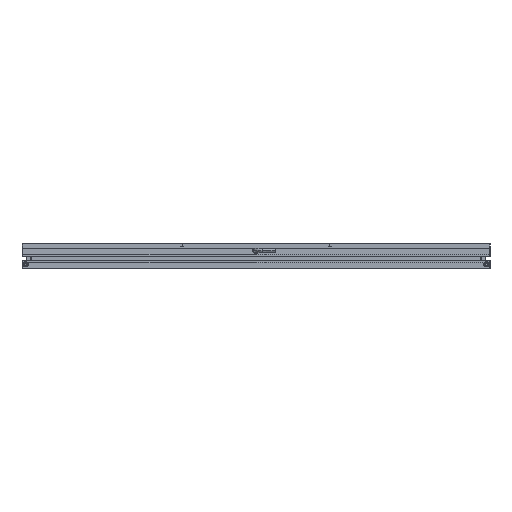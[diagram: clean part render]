
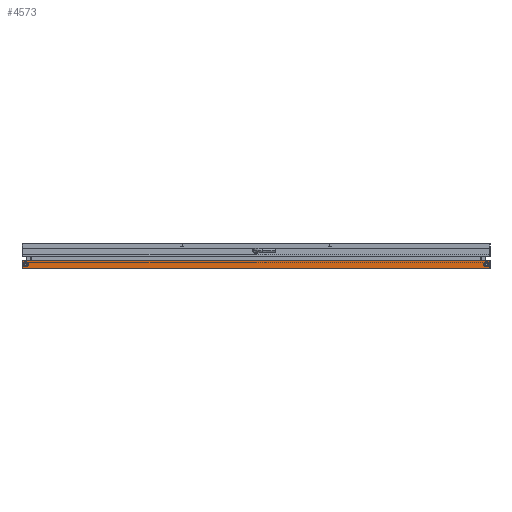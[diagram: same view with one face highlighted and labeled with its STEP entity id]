
A CAD part, left-side view. The second image highlights one B-rep face of the part: STEP entity #4573.
In plain terms, the highlighted planar face has unit normal (-1, 0, 0).
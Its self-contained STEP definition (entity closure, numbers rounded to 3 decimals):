
#73 = CARTESIAN_POINT ( 'NONE',  ( -182., 182., -15.5 ) ) ;
#122 = DIRECTION ( 'NONE',  ( 0., 0., -1. ) ) ;
#194 = FACE_BOUND ( 'NONE', #2002, .T. ) ;
#363 = DIRECTION ( 'NONE',  ( 0., -1., 0. ) ) ;
#468 = CARTESIAN_POINT ( 'NONE',  ( -182., 182., -15.5 ) ) ;
#526 = ORIENTED_EDGE ( 'NONE', *, *, #3501, .T. ) ;
#543 = ORIENTED_EDGE ( 'NONE', *, *, #4445, .T. ) ;
#822 = CARTESIAN_POINT ( 'NONE',  ( -182., -181.5, -9.85 ) ) ;
#834 = EDGE_CURVE ( 'NONE', #1883, #2876, #1431, .T. ) ;
#850 = EDGE_LOOP ( 'NONE', ( #543, #2308 ) ) ;
#968 = CARTESIAN_POINT ( 'NONE',  ( -182., 181.5, -9.85 ) ) ;
#1012 = ORIENTED_EDGE ( 'NONE', *, *, #3430, .T. ) ;
#1091 = CARTESIAN_POINT ( 'NONE',  ( -182., 179., -12.5 ) ) ;
#1184 = AXIS2_PLACEMENT_3D ( 'NONE', #5847, #2647, #6856 ) ;
#1223 = VERTEX_POINT ( 'NONE', #4065 ) ;
#1314 = DIRECTION ( 'NONE',  ( 0., 0., -1. ) ) ;
#1358 = ORIENTED_EDGE ( 'NONE', *, *, #6387, .T. ) ;
#1431 = CIRCLE ( 'NONE', #2799, 2. ) ;
#1472 = CARTESIAN_POINT ( 'NONE',  ( -182., 181.5, -15.5 ) ) ;
#1477 = VERTEX_POINT ( 'NONE', #822 ) ;
#1645 = AXIS2_PLACEMENT_3D ( 'NONE', #1774, #5045, #2350 ) ;
#1678 = EDGE_LOOP ( 'NONE', ( #2803, #526, #1012, #2242 ) ) ;
#1774 = CARTESIAN_POINT ( 'NONE',  ( -182., 179., -12.5 ) ) ;
#1883 = VERTEX_POINT ( 'NONE', #3932 ) ;
#1907 = LINE ( 'NONE', #468, #4212 ) ;
#2002 = EDGE_LOOP ( 'NONE', ( #5877, #1358 ) ) ;
#2231 = CARTESIAN_POINT ( 'NONE',  ( -182., -179., -10.5 ) ) ;
#2242 = ORIENTED_EDGE ( 'NONE', *, *, #4148, .F. ) ;
#2308 = ORIENTED_EDGE ( 'NONE', *, *, #3568, .T. ) ;
#2350 = DIRECTION ( 'NONE',  ( 0., 0., -1. ) ) ;
#2428 = DIRECTION ( 'NONE',  ( 0., 0., 1. ) ) ;
#2477 = CARTESIAN_POINT ( 'NONE',  ( -182., -181.5, -15.5 ) ) ;
#2502 = DIRECTION ( 'NONE',  ( 1., 0., 0. ) ) ;
#2647 = DIRECTION ( 'NONE',  ( 1., 0., 0. ) ) ;
#2799 = AXIS2_PLACEMENT_3D ( 'NONE', #1091, #5445, #5364 ) ;
#2803 = ORIENTED_EDGE ( 'NONE', *, *, #5164, .F. ) ;
#2876 = VERTEX_POINT ( 'NONE', #3126 ) ;
#2892 = VERTEX_POINT ( 'NONE', #2231 ) ;
#3126 = CARTESIAN_POINT ( 'NONE',  ( -182., 179., -10.5 ) ) ;
#3149 = DIRECTION ( 'NONE',  ( 0., -1., 0. ) ) ;
#3273 = PLANE ( 'NONE',  #4317 ) ;
#3356 = CIRCLE ( 'NONE', #1645, 2. ) ;
#3382 = CARTESIAN_POINT ( 'NONE',  ( -182., -181.5, 0. ) ) ;
#3430 = EDGE_CURVE ( 'NONE', #6700, #5196, #1907, .T. ) ;
#3501 = EDGE_CURVE ( 'NONE', #3778, #6700, #4529, .T. ) ;
#3568 = EDGE_CURVE ( 'NONE', #2892, #1223, #6719, .T. ) ;
#3631 = CIRCLE ( 'NONE', #1184, 2. ) ;
#3710 = AXIS2_PLACEMENT_3D ( 'NONE', #5736, #2502, #4171 ) ;
#3778 = VERTEX_POINT ( 'NONE', #968 ) ;
#3788 = VECTOR ( 'NONE', #1314, 1000. ) ;
#3804 = LINE ( 'NONE', #5721, #4036 ) ;
#3843 = DIRECTION ( 'NONE',  ( 1., 0., 0. ) ) ;
#3866 = VECTOR ( 'NONE', #122, 1000. ) ;
#3932 = CARTESIAN_POINT ( 'NONE',  ( -182., 179., -14.5 ) ) ;
#4036 = VECTOR ( 'NONE', #363, 1000. ) ;
#4065 = CARTESIAN_POINT ( 'NONE',  ( -182., -179., -14.5 ) ) ;
#4148 = EDGE_CURVE ( 'NONE', #1477, #5196, #5276, .T. ) ;
#4171 = DIRECTION ( 'NONE',  ( 0., 0., -1. ) ) ;
#4212 = VECTOR ( 'NONE', #3149, 1000. ) ;
#4317 = AXIS2_PLACEMENT_3D ( 'NONE', #73, #3843, #2428 ) ;
#4445 = EDGE_CURVE ( 'NONE', #1223, #2892, #3631, .T. ) ;
#4529 = LINE ( 'NONE', #6154, #3788 ) ;
#4573 = ADVANCED_FACE ( 'NONE', ( #194, #4810, #6318 ), #3273, .F. ) ;
#4810 = FACE_BOUND ( 'NONE', #850, .T. ) ;
#5045 = DIRECTION ( 'NONE',  ( 1., 0., 0. ) ) ;
#5164 = EDGE_CURVE ( 'NONE', #3778, #1477, #3804, .T. ) ;
#5196 = VERTEX_POINT ( 'NONE', #2477 ) ;
#5276 = LINE ( 'NONE', #3382, #3866 ) ;
#5364 = DIRECTION ( 'NONE',  ( 0., 0., -1. ) ) ;
#5445 = DIRECTION ( 'NONE',  ( 1., 0., 0. ) ) ;
#5721 = CARTESIAN_POINT ( 'NONE',  ( -182., 182., -9.85 ) ) ;
#5736 = CARTESIAN_POINT ( 'NONE',  ( -182., -179., -12.5 ) ) ;
#5847 = CARTESIAN_POINT ( 'NONE',  ( -182., -179., -12.5 ) ) ;
#5877 = ORIENTED_EDGE ( 'NONE', *, *, #834, .T. ) ;
#6154 = CARTESIAN_POINT ( 'NONE',  ( -182., 181.5, 0. ) ) ;
#6318 = FACE_OUTER_BOUND ( 'NONE', #1678, .T. ) ;
#6387 = EDGE_CURVE ( 'NONE', #2876, #1883, #3356, .T. ) ;
#6700 = VERTEX_POINT ( 'NONE', #1472 ) ;
#6719 = CIRCLE ( 'NONE', #3710, 2. ) ;
#6856 = DIRECTION ( 'NONE',  ( 0., 0., -1. ) ) ;
